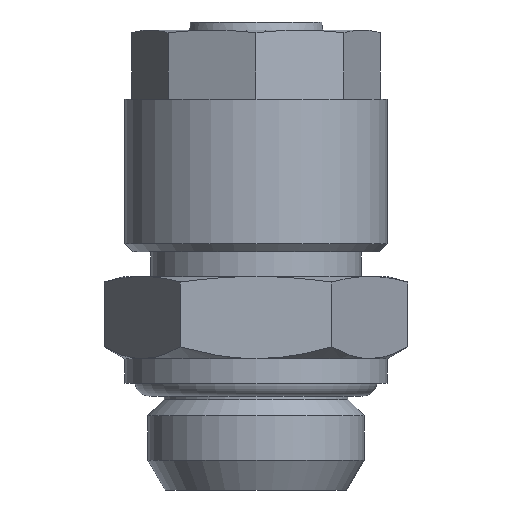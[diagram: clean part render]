
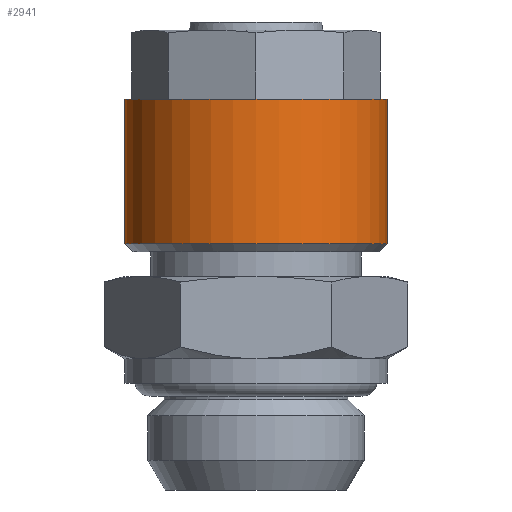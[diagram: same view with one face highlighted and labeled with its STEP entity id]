
A CAD part, front view. The second image highlights one B-rep face of the part: STEP entity #2941.
In plain terms, the highlighted cylindrical face has radius 8 mm (diameter 16 mm), a full revolution.
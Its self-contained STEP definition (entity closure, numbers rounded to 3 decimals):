
#1579=ORIENTED_EDGE('',*,*,#1836,.F.);
#1580=ORIENTED_EDGE('',*,*,#1837,.T.);
#1638=CIRCLE('',#2852,8.);
#1639=CIRCLE('',#2854,8.);
#1720=VERTEX_POINT('',#2676);
#1721=VERTEX_POINT('',#2679);
#1836=EDGE_CURVE('',#1720,#1720,#1638,.T.);
#1837=EDGE_CURVE('',#1721,#1721,#1639,.T.);
#1937=EDGE_LOOP('',(#1579));
#1938=EDGE_LOOP('',(#1580));
#2043=FACE_BOUND('',#1937,.T.);
#2044=FACE_BOUND('',#1938,.T.);
#2393=DIRECTION('',(0.,1.,0.));
#2394=DIRECTION('',(0.,0.,-8.));
#2395=DIRECTION('',(0.,1.,0.));
#2396=DIRECTION('',(1.,0.,0.));
#2397=DIRECTION('',(0.,1.,0.));
#2398=DIRECTION('',(0.,0.,8.));
#2676=CARTESIAN_POINT('',(26.989,23.895,-8.));
#2677=CARTESIAN_POINT('',(26.989,23.895,0.));
#2678=CARTESIAN_POINT('',(26.989,15.095,0.));
#2679=CARTESIAN_POINT('',(26.989,15.095,8.));
#2680=CARTESIAN_POINT('',(26.989,15.095,0.));
#2852=AXIS2_PLACEMENT_3D('',#2677,#2393,#2394);
#2853=AXIS2_PLACEMENT_3D('',#2678,#2395,#2396);
#2854=AXIS2_PLACEMENT_3D('',#2680,#2397,#2398);
#2873=CYLINDRICAL_SURFACE('',#2853,8.);
#2941=ADVANCED_FACE('',(#2043,#2044),#2873,.T.);
